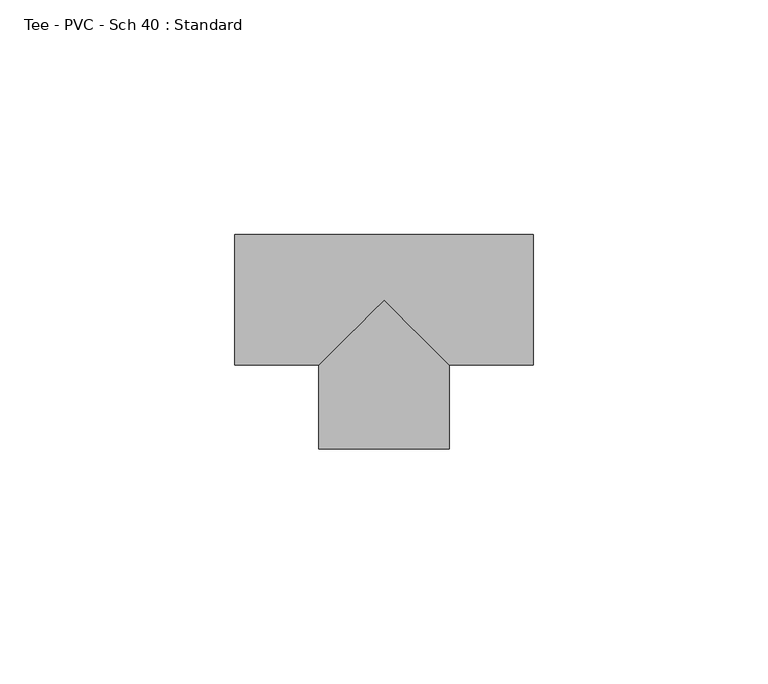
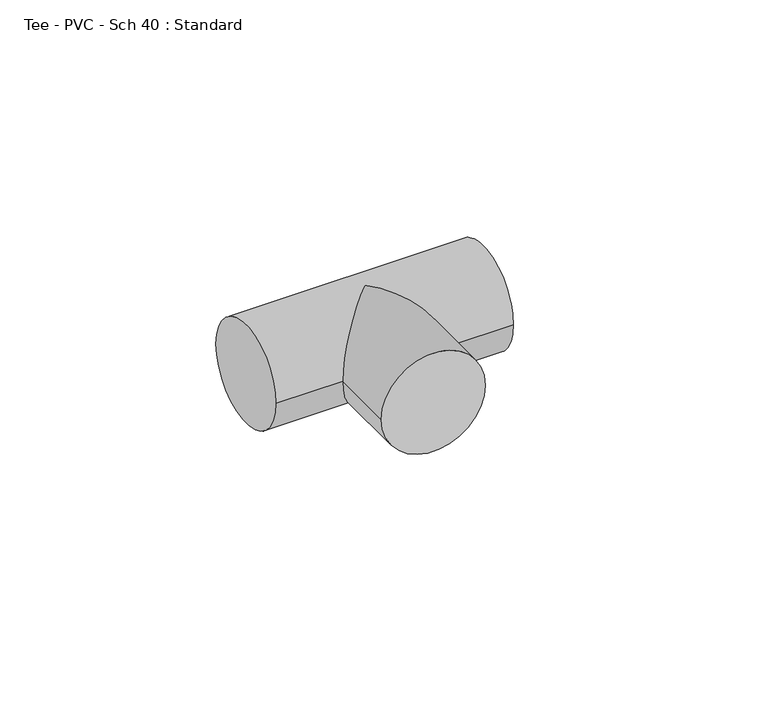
"""IFC4 building model written with IfcOpenShell, lengths in millimetres: pipe fitting geometry, Tee - PVC - Sch 40 : Standard."""

from ifc_helpers import new_model, si_unit, frame, origin, place, context, project, spatial, circle_curve, ellipse_curve, source, transform, mapped, element, save
from ifc_brep_helpers import plane_surface, cylinder_surface, advanced_brep


def tee_pvc_sch_40_standard_2c251a49(model_context):
    return source(origin(), model_context, "Body", "AdvancedBrep", [
        advanced_brep(
        [(-31.75, -13.8938, 0.0), (-31.75, 13.8938, 0.0), (31.75, -13.8938, 0.0), (31.75, 13.8938, 0.0), (-13.8938, -13.8938, 0.0), (0.0, 0.0, 13.8938), (13.8938, -13.8938, 0.0), (0.0, 0.0, -13.8938), (-13.8938, -31.75, 0.0), (13.8938, -31.75, 0.0)],
        [
            (0, 1, circle_curve(frame((-31.75, 0.0, 0.0), z_axis=(-1.0, 0.0, 0.0), x_axis=(0.0, 1.0, 0.0)), 13.8938)),
            (1, 0, circle_curve(frame((-31.75, 0.0, 0.0), z_axis=(-1.0, 0.0, 0.0), x_axis=(0.0, 1.0, 0.0)), 13.8938)),
            (2, 3, circle_curve(frame((31.75, 0.0, 0.0), z_axis=(1.0, 0.0, 0.0), x_axis=(0.0, 1.0, 0.0)), 13.8938)),
            (3, 2, circle_curve(frame((31.75, 0.0, 0.0), z_axis=(1.0, 0.0, 0.0), x_axis=(0.0, 1.0, 0.0)), 13.8938)),
            (0, 4),
            (4, 5, ellipse_curve(frame((0.0, 0.0, 0.0), z_axis=(-0.7071067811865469, 0.7071067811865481, 0.0), x_axis=(-0.707106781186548, -0.7071067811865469, 0.0)), 19.6488004, 13.8938)),
            (5, 6, ellipse_curve(frame((0.0, 0.0, 0.0), z_axis=(0.707106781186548, 0.7071067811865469, 0.0), x_axis=(-0.707106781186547, 0.707106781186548, 0.0)), 19.6488004, 13.8938)),
            (6, 2),
            (3, 1),
            (6, 7, ellipse_curve(frame((0.0, 0.0, 0.0), z_axis=(0.707106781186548, 0.7071067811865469, 0.0), x_axis=(-0.707106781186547, 0.707106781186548, 0.0)), 19.6488004, 13.8938)),
            (7, 4, ellipse_curve(frame((0.0, 0.0, 0.0), z_axis=(-0.7071067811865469, 0.7071067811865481, 0.0), x_axis=(-0.707106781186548, -0.7071067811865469, 0.0)), 19.6488004, 13.8938)),
            (8, 9, circle_curve(frame((0.0, -31.75, 0.0), z_axis=(0.0, -1.0, 0.0), x_axis=(1.0, 0.0, 0.0)), 13.8938)),
            (9, 8, circle_curve(frame((0.0, -31.75, 0.0), z_axis=(0.0, -1.0, 0.0), x_axis=(1.0, 0.0, 0.0)), 13.8938)),
            (9, 6),
            (4, 8),
        ],
        [
            plane_surface(frame((-31.75, 0.0, 0.0), z_axis=(-1.0, 0.0, 0.0), x_axis=(0.0, 0.0, 1.0))),
            plane_surface(frame((31.75, 0.0, 0.0), z_axis=(1.0, 0.0, 0.0), x_axis=(0.0, 0.0, 1.0))),
            cylinder_surface(frame((-31.75, 0.0, 0.0), z_axis=(-1.0, 0.0, 0.0), x_axis=(0.0, 1.0, 0.0)), 13.8938),
            plane_surface(frame((0.0, -31.75, 0.0), z_axis=(0.0, -1.0, 0.0), x_axis=(0.0, 0.0, 1.0))),
            cylinder_surface(frame((0.0, 0.0, 0.0), z_axis=(0.0, 1.0, 0.0), x_axis=(1.0, 0.0, 0.0)), 13.8938),
        ],
        [
            (0, [[1, 2]]),
            (1, [[3, 4]]),
            (2, [[-1, 5, 6, 7, 8, -4, 9]]),
            (2, [[-2, -9, -3, -8, 10, 11, -5]]),
            (3, [[12, 13]]),
            (4, [[-13, 14, -7, -6, 15]]),
            (4, [[-12, -15, -11, -10, -14]]),
        ],
    ),
    ])


if __name__ == "__main__":
    model = new_model("IFC4")
    model_context = context("Model", 3, world=origin())
    ifc_project = project(units=[si_unit("LENGTHUNIT", "METRE", prefix="MILLI")], contexts=[model_context])
    site = spatial("IfcSite", under=ifc_project)
    building = spatial("IfcBuilding", under=site)
    placement = place(None, origin())
    tee_pvc_sch_40_standard_shape = tee_pvc_sch_40_standard_2c251a49(model_context)
    element("IfcPipeFitting", 1, ObjectType="Tee - PVC - Sch 40 : Standard", at=placement, inside=building, context=model_context, shape_type="MappedRepresentation", body=[
        mapped(tee_pvc_sch_40_standard_shape, transform((0.0, 0.0, 0.0), x_axis=(1.0, 0.0, 0.0), y_axis=(0.0, 1.0, 0.0), z_axis=(0.0, 0.0, 1.0))),
    ])
    save(model, "model.ifc")
